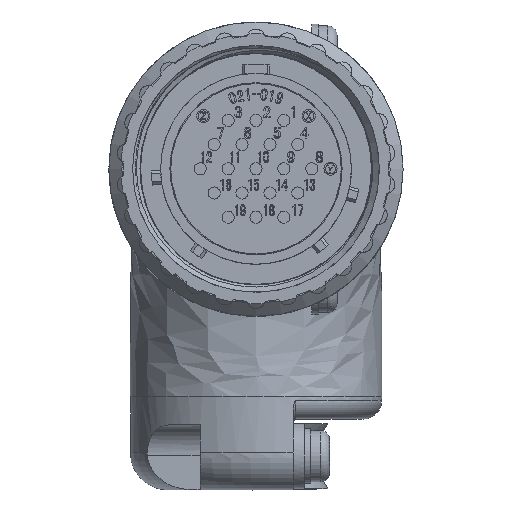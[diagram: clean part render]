
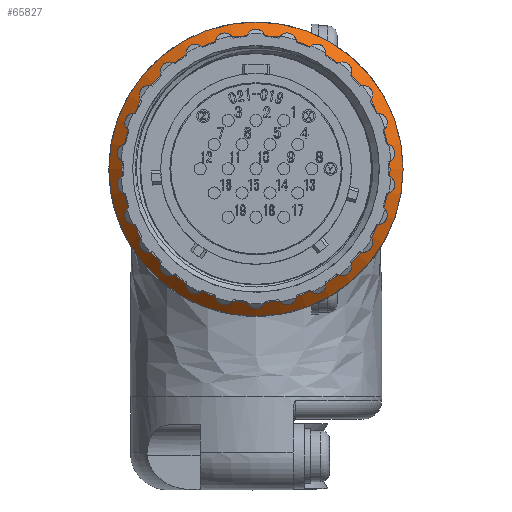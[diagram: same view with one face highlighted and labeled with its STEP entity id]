
A CAD part, top view. The second image highlights one B-rep face of the part: STEP entity #65827.
In plain terms, the highlighted conical face has half-angle 45 degrees and reference radius 14.4 mm.
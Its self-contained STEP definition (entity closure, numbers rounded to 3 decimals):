
#7402 = EDGE_LOOP ( 'NONE', ( #28363 ) ) ;
#7993 = CARTESIAN_POINT ( 'NONE',  ( 0., 0., -20.73 ) ) ;
#10604 = FACE_OUTER_BOUND ( 'NONE', #77695, .T. ) ;
#11640 = VERTEX_POINT ( 'NONE', #28238 ) ;
#18652 = AXIS2_PLACEMENT_3D ( 'NONE', #7993, #33419, #53623 ) ;
#22642 = DIRECTION ( 'NONE',  ( -1., 0., 0. ) ) ;
#28238 = CARTESIAN_POINT ( 'NONE',  ( 15.8, 0., -22.13 ) ) ;
#28363 = ORIENTED_EDGE ( 'NONE', *, *, #77035, .F. ) ;
#33419 = DIRECTION ( 'NONE',  ( 0., 0., 1. ) ) ;
#37500 = AXIS2_PLACEMENT_3D ( 'NONE', #78138, #51908, #45864 ) ;
#42807 = ORIENTED_EDGE ( 'NONE', *, *, #60599, .T. ) ;
#44794 = CIRCLE ( 'NONE', #18652, 14.4 ) ;
#45864 = DIRECTION ( 'NONE',  ( 1., 0., 0. ) ) ;
#49280 = AXIS2_PLACEMENT_3D ( 'NONE', #61568, #61854, #22642 ) ;
#51908 = DIRECTION ( 'NONE',  ( 0., 0., 1. ) ) ;
#53623 = DIRECTION ( 'NONE',  ( 1., 0., 0. ) ) ;
#53760 = CIRCLE ( 'NONE', #37500, 15.8 ) ;
#58144 = CONICAL_SURFACE ( 'NONE', #49280, 14.4, 0.785 ) ;
#60599 = EDGE_CURVE ( 'NONE', #11640, #11640, #53760, .T. ) ;
#61568 = CARTESIAN_POINT ( 'NONE',  ( 0., 0., -20.73 ) ) ;
#61854 = DIRECTION ( 'NONE',  ( 0., 0., -1. ) ) ;
#65827 = ADVANCED_FACE ( 'NONE', ( #75672, #10604 ), #58144, .T. ) ;
#66405 = VERTEX_POINT ( 'NONE', #74099 ) ;
#74099 = CARTESIAN_POINT ( 'NONE',  ( 14.4, 0., -20.73 ) ) ;
#75672 = FACE_BOUND ( 'NONE', #7402, .T. ) ;
#77035 = EDGE_CURVE ( 'NONE', #66405, #66405, #44794, .T. ) ;
#77695 = EDGE_LOOP ( 'NONE', ( #42807 ) ) ;
#78138 = CARTESIAN_POINT ( 'NONE',  ( 0., 0., -22.13 ) ) ;
